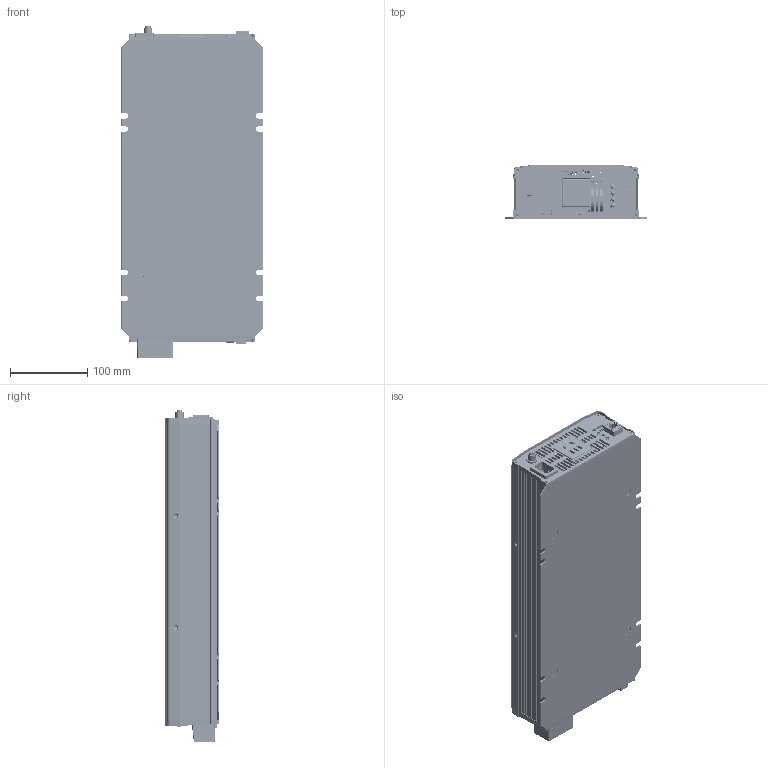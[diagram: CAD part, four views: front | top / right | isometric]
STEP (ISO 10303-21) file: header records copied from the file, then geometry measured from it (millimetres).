
FILE_DESCRIPTION(('Creo Elements/Direct Modeling STEP Export'),'2;1');
FILE_NAME('NTU-1700CN.stp','2024-07-09T13:41:40',(''),(''),'PTC Creo Elements/Direct Modeling STEP processor for AP214 (Solid Model)','PTC Creo Elements/Direct Modeling 19.0E 27-Jun-2016 (C) Parametric Technology GmbH','');
FILE_SCHEMA(('AUTOMOTIVE_DESIGN { 1 0 10303 214 1 1 1 1 }'));
Length unit declared in the file: millimetre
Products named in the file (283): 中国插; 中国插.stp; 接地端子; AL_1_PRT_16_1_1_5.PRT.5; BREAKER; MOSTO3P_1_1_PRT_16_1_1_5.PRT.42; TO220.13; TO220.26; TO220.26.1; MYLAR-2_5.PRT; MYLAR_PRT_16_1_1_5.PRT; 1GG1HS-SZ907; TO220.14; 1GG4CU-SZ051; ON-OFF; C1; C1.1; 1HH1128x127x0.2; C1.2; P1.PRT; C1.2.1; E65; TO220.15; 1HH196x28x0.3; TO220.27; C1.2.1.1; C1.2.1.1.1; E65.1; C1.2.1.1.1.1; 1HH196x28x0.3.1; C1.2.2; TO220.16; TO220.27.1; EE_2_PRT_16_1_1_5.PRT.22; CASE; 11; E_1_PRT_16_1_1_5.PRT; 11.1; 1HH240x60x0.25; 11.10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
Assembly tree (285 placements, depth 3):
  中国插.stp
    中国插
      中国插
  NTU-1700CN.stp
    M3-7L_1_PRT_16_1_1_5.PRT.9
      M3-7L_1_PRT_16_1_1_5.PRT.9
    77_PRT_16_1_1_5.PRT
      77_PRT_16_1_1_5.PRT
    TO220.25.1
      TO220.25
    TO220.12
      TO220.12
    DP1
      DP1
    M3-7L_1_PRT_16_1_1_5.PRT.7
      M3-7L_1_PRT_16_1_1_5.PRT.7
    55.1.1.1.1.1.1
      55.1.1.1.1.1.1
    热敏.1
      热敏.1
    55.1.1.1.1.1
      55.1.1.1.1.1
    M3-7L_1_PRT_16_1_1_5.PRT.6
      M3-7L_1_PRT_16_1_1_5.PRT.6
    1GG4CU-SZ050
      1GG4CU-SZ050
    55.1.1.1.1
      55.1.1.1.1
    热敏
      热敏
    M3-7L_1_PRT_16_1_1_5.PRT.5
      M3-7L_1_PRT_16_1_1_5.PRT.5
    55.1.1.1
      55.1.1.1
    TO220.25
      TO220.25
    TO220.11
      TO220.11
    M3-7L_1_PRT_16_1_1_5.PRT.1
      M3-7L_1_PRT_16_1_1_5.PRT.1
    55.1.1
      55.1.1
    THERMAL_PAD-2_5.PRT
      THERMAL_PAD-2_5.PRT
    1GG4CU-SZ058
      1GG4CU-SZ058
    55.1
      55.1
    THERMAL_PAD-1_8.PRT
      THERMAL_PAD-1_8.PRT
    M3-7L_1_PRT_16_1_1_5.PRT
      M3-7L_1_PRT_16_1_1_5.PRT
    55
    接地端子
      接地端子
    1GG2MHSSZ010
      1GG2MHSSZ010
    1GG1HS-SZ135B(共用SZ135铝挤型).1
      1GG1HS-SZ135B(共用SZ135铝挤型).1
    LED_1_PRT_2_1_1_1_1_1_1_PRT_16_.PRT.7
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Bounding box: 183.99 x 70 x 431.06 mm (x, y, z)
Volume: 1447289.4 mm3; surface area: 1314542.6 mm2
Topology: 171 solids, 171 shells, 7237 faces, 19260 edges, 12632 vertices
Faces by surface type: plane 5158, cylinder 1446, cone 389, torus 89, bspline 82, sphere 72, extrusion 1
Entity records: 231631 total; most frequent: CARTESIAN_POINT 46870, ORIENTED_EDGE 38152, DIRECTION 34740, EDGE_CURVE 19064, VECTOR 14872, LINE 14871, VERTEX_POINT 12560, AXIS2_PLACEMENT_3D 9934
